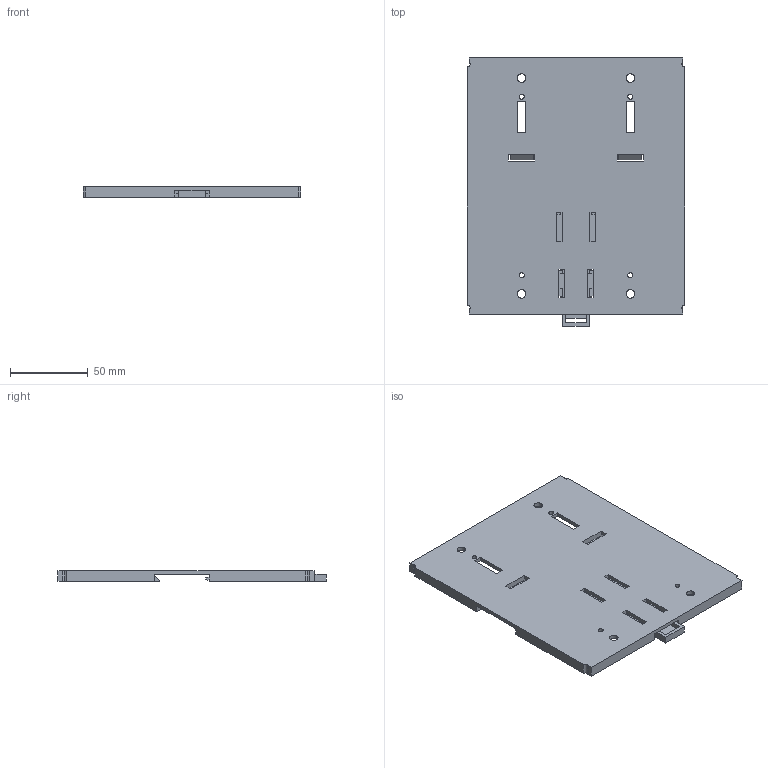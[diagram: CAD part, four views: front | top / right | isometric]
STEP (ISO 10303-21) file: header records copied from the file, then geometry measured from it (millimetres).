
FILE_DESCRIPTION (( 'STEP AP203' ), '1' );
FILE_NAME ('5-250-4-絳寢.STEP', '2024-09-20T08:14:13', ( 'A' ), ( '' ), 'SwSTEP 2.0', 'SolidWorks 2018', '' );
FILE_SCHEMA (( 'CONFIG_CONTROL_DESIGN' ));
Length unit declared in the file: millimetre
Products named in the file (4): 5-250-4-絳寢1足1“_; 8LD.140.1005; 8LD.282.1030; 8LD.064.1014
Assembly tree (3 placements, depth 2):
  5-250-4-絳寢1足1“_
    8LD.064.1014
    8LD.140.1005
    8LD.282.1030
Bounding box: 140 x 172.75 x 7 mm (x, y, z)
Volume: 70183.9 mm3; surface area: 66713.4 mm2
Topology: 3 solids, 3 shells, 272 faces, 752 edges, 502 vertices
Faces by surface type: plane 241, cylinder 30, bspline 1
Entity records: 14909 total; most frequent: CARTESIAN_POINT 7404, ORIENTED_EDGE 1504, DIRECTION 1369, EDGE_CURVE 752, LINE 687, VECTOR 687, VERTEX_POINT 502, AXIS2_PLACEMENT_3D 341
